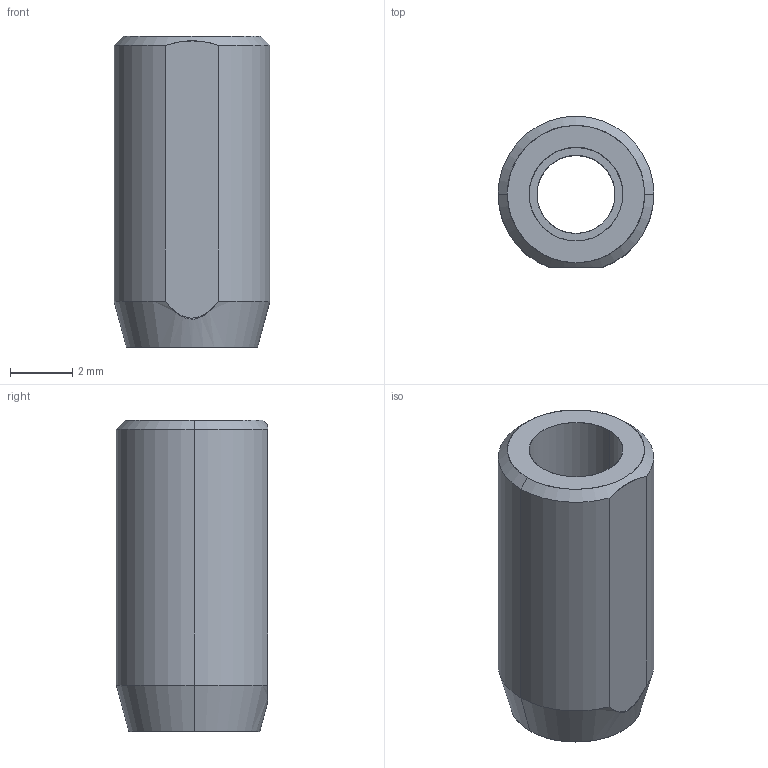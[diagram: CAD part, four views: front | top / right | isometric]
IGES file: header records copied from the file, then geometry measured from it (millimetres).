
Global section: file name: E:\UnigraphicsGraphicData\MISUMI_PRESS-PARTS\IGES\3d_mstm5-10_00429_r00.igs; native system: NX V5.0; preprocessor: UGS NX IGES V5.0; author: MISUMI; date: 20110105.161521; units: millimetre
Bounding box: 5 x 4.85 x 10 mm (x, y, z)
Surface area: 264.3 mm2 (no closed solid volume)
Topology: 0 solids, 0 shells, 15 faces, 100 edges, 100 vertices
Faces by surface type: bspline 15
